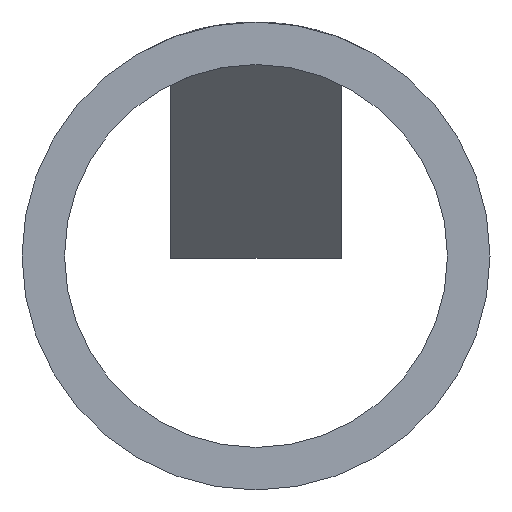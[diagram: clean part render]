
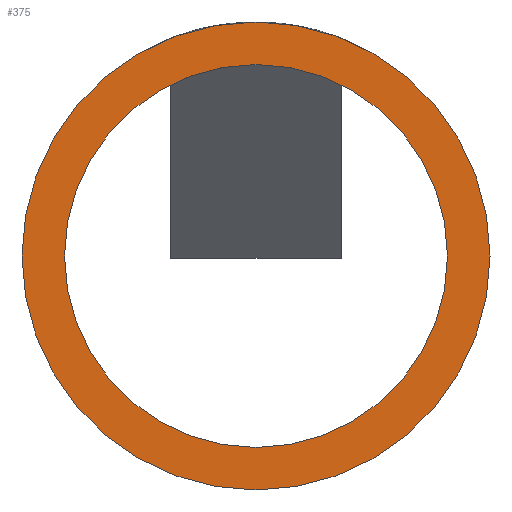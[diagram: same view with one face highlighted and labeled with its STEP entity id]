
A CAD part, front view. The second image highlights one B-rep face of the part: STEP entity #375.
In plain terms, the highlighted planar face has unit normal (0, -1, 0).
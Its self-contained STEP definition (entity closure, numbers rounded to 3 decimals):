
#47 = ORIENTED_EDGE ( 'NONE', *, *, #105, .T. ) ;
#48 = ORIENTED_EDGE ( 'NONE', *, *, #115, .F. ) ;
#49 = ORIENTED_EDGE ( 'NONE', *, *, #90, .F. ) ;
#51 = ORIENTED_EDGE ( 'NONE', *, *, #131, .T. ) ;
#90 = EDGE_CURVE ( 'NONE', #305, #300, #391, .T. ) ;
#97 = AXIS2_PLACEMENT_3D ( 'NONE', #291, #278, #277 ) ;
#99 = AXIS2_PLACEMENT_3D ( 'NONE', #197, #194, #180 ) ;
#105 = EDGE_CURVE ( 'NONE', #321, #337, #431, .T. ) ;
#115 = EDGE_CURVE ( 'NONE', #300, #305, #417, .T. ) ;
#120 = AXIS2_PLACEMENT_3D ( 'NONE', #341, #340, #338 ) ;
#125 = AXIS2_PLACEMENT_3D ( 'NONE', #320, #307, #306 ) ;
#131 = EDGE_CURVE ( 'NONE', #337, #321, #402, .T. ) ;
#149 = AXIS2_PLACEMENT_3D ( 'NONE', #199, #196, #195 ) ;
#162 = FACE_OUTER_BOUND ( 'NONE', #492, .T. ) ;
#180 = DIRECTION ( 'NONE',  ( -1., 0., 0. ) ) ;
#194 = DIRECTION ( 'NONE',  ( 0., -1., 0. ) ) ;
#195 = DIRECTION ( 'NONE',  ( -1., 0., 0. ) ) ;
#196 = DIRECTION ( 'NONE',  ( 0., -1., 0. ) ) ;
#197 = CARTESIAN_POINT ( 'NONE',  ( 0., 0., 0. ) ) ;
#198 = PLANE ( 'NONE',  #149 ) ;
#199 = CARTESIAN_POINT ( 'NONE',  ( 0., 0., 0. ) ) ;
#250 = CARTESIAN_POINT ( 'NONE',  ( -5.5, 0., 0. ) ) ;
#256 = CARTESIAN_POINT ( 'NONE',  ( 5.5, 0., 0. ) ) ;
#268 = CARTESIAN_POINT ( 'NONE',  ( -4.5, 0., 0. ) ) ;
#272 = CARTESIAN_POINT ( 'NONE',  ( 4.5, 0., 0. ) ) ;
#277 = DIRECTION ( 'NONE',  ( -1., 0., 0. ) ) ;
#278 = DIRECTION ( 'NONE',  ( 0., -1., 0. ) ) ;
#291 = CARTESIAN_POINT ( 'NONE',  ( 0., 0., 0. ) ) ;
#300 = VERTEX_POINT ( 'NONE', #272 ) ;
#305 = VERTEX_POINT ( 'NONE', #268 ) ;
#306 = DIRECTION ( 'NONE',  ( -1., 0., 0. ) ) ;
#307 = DIRECTION ( 'NONE',  ( 0., -1., 0. ) ) ;
#320 = CARTESIAN_POINT ( 'NONE',  ( 0., 0., 0. ) ) ;
#321 = VERTEX_POINT ( 'NONE', #256 ) ;
#337 = VERTEX_POINT ( 'NONE', #250 ) ;
#338 = DIRECTION ( 'NONE',  ( -1., 0., 0. ) ) ;
#340 = DIRECTION ( 'NONE',  ( 0., -1., 0. ) ) ;
#341 = CARTESIAN_POINT ( 'NONE',  ( 0., 0., 0. ) ) ;
#375 = ADVANCED_FACE ( 'NONE', ( #162, #462 ), #198, .T. ) ;
#391 = CIRCLE ( 'NONE', #99, 4.5 ) ;
#402 = CIRCLE ( 'NONE', #97, 5.5 ) ;
#417 = CIRCLE ( 'NONE', #125, 4.5 ) ;
#431 = CIRCLE ( 'NONE', #120, 5.5 ) ;
#462 = FACE_BOUND ( 'NONE', #468, .T. ) ;
#468 = EDGE_LOOP ( 'NONE', ( #48, #49 ) ) ;
#492 = EDGE_LOOP ( 'NONE', ( #47, #51 ) ) ;
